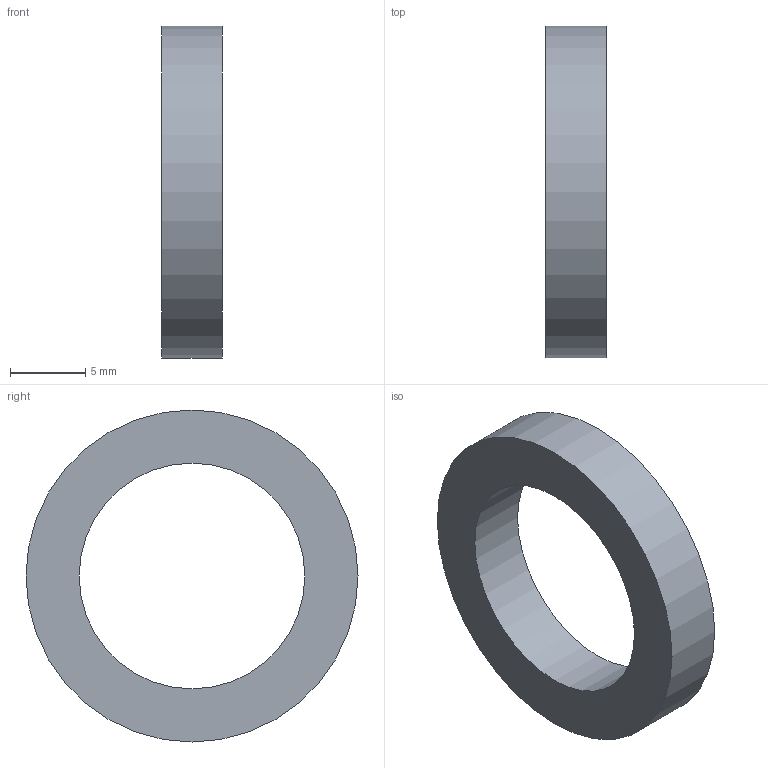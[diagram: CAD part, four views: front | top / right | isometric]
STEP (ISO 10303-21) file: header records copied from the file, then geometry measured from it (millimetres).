
FILE_DESCRIPTION(('Open CASCADE Model'),'2;1');
FILE_NAME('Open CASCADE Shape Model','2026-10-31T23:30:59',('Author'),( 'Open CASCADE'),'Open CASCADE STEP processor 7.9','Open CASCADE 7.9' ,'Unknown');
FILE_SCHEMA(('AUTOMOTIVE_DESIGN { 1 0 10303 214 1 1 1 1 }'));
Length unit declared in the file: millimetre
Products named in the file (1): Open CASCADE STEP translator 7.9 11
Bounding box: 4 x 22 x 22 mm (x, y, z)
Volume: 817.4 mm3; surface area: 873.2 mm2
Topology: 1 solids, 1 shells, 4 faces, 6 edges, 4 vertices
Faces by surface type: cylinder 2, plane 2
Full cylindrical faces by diameter (mm): 14.96 x1, 22 x1
Entity records: 186 total; most frequent: DIRECTION 32, CARTESIAN_POINT 27, ORIENTED_EDGE 12, PCURVE 12, DEFINITIONAL_REPRESENTATION 12, LINE 10, VECTOR 10, AXIS2_PLACEMENT_3D 9
